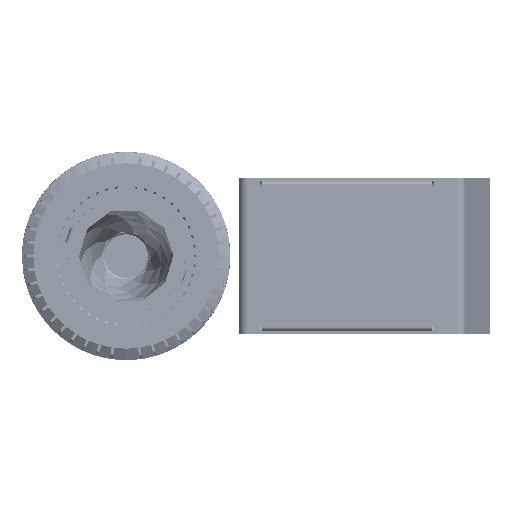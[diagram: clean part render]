
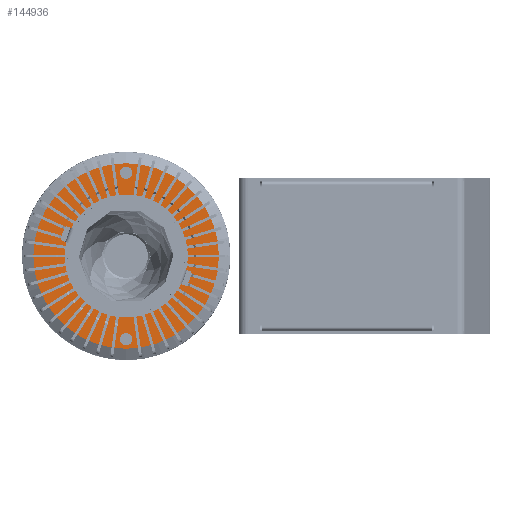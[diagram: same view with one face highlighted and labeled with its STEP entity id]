
A CAD part, front view. The second image highlights one B-rep face of the part: STEP entity #144936.
In plain terms, the highlighted planar face has unit normal (0, -1, 0).
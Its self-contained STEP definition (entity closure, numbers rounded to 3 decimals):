
#2117 = ORIENTED_EDGE ( 'NONE', *, *, #62719, .F. ) ;
#2439 = ORIENTED_EDGE ( 'NONE', *, *, #114952, .F. ) ;
#7847 = FACE_BOUND ( 'NONE', #105581, .T. ) ;
#10839 = CIRCLE ( 'NONE', #202651, 49. ) ;
#15204 = DIRECTION ( 'NONE',  ( 0., 0., 1. ) ) ;
#16013 = CIRCLE ( 'NONE', #105533, 29. ) ;
#17192 = CARTESIAN_POINT ( 'NONE',  ( 44., 0., 0. ) ) ;
#23061 = ORIENTED_EDGE ( 'NONE', *, *, #134742, .T. ) ;
#23401 = CARTESIAN_POINT ( 'NONE',  ( 11.287, 0., 31.01 ) ) ;
#30851 = DIRECTION ( 'NONE',  ( 1., 0., 0. ) ) ;
#39822 = VERTEX_POINT ( 'NONE', #254843 ) ;
#41672 = DIRECTION ( 'NONE',  ( 0., 0., 1. ) ) ;
#42994 = DIRECTION ( 'NONE',  ( 0., 1., 0. ) ) ;
#44289 = AXIS2_PLACEMENT_3D ( 'NONE', #49617, #129634, #30851 ) ;
#44606 = ORIENTED_EDGE ( 'NONE', *, *, #120510, .F. ) ;
#45955 = AXIS2_PLACEMENT_3D ( 'NONE', #131595, #94200, #115441 ) ;
#49617 = CARTESIAN_POINT ( 'NONE',  ( 0., 0., 0. ) ) ;
#50296 = DIRECTION ( 'NONE',  ( 0., -1., 0. ) ) ;
#55204 = DIRECTION ( 'NONE',  ( 1., 0., 0. ) ) ;
#59048 = EDGE_LOOP ( 'NONE', ( #23061, #254694 ) ) ;
#62198 = DIRECTION ( 'NONE',  ( 0., -1., 0. ) ) ;
#62719 = EDGE_CURVE ( 'NONE', #179702, #39822, #260876, .T. ) ;
#62816 = EDGE_LOOP ( 'NONE', ( #246469, #85282 ) ) ;
#67607 = CARTESIAN_POINT ( 'NONE',  ( -44., 0., -3.25 ) ) ;
#69428 = DIRECTION ( 'NONE',  ( 0., -1., 0. ) ) ;
#69877 = CARTESIAN_POINT ( 'NONE',  ( 44., 0., -3.25 ) ) ;
#70821 = EDGE_LOOP ( 'NONE', ( #183611, #177614 ) ) ;
#72187 = CARTESIAN_POINT ( 'NONE',  ( 44., 0., 3.25 ) ) ;
#76181 = EDGE_CURVE ( 'NONE', #81557, #149659, #244625, .T. ) ;
#77167 = CIRCLE ( 'NONE', #238900, 49. ) ;
#78402 = VERTEX_POINT ( 'NONE', #97237 ) ;
#78536 = CARTESIAN_POINT ( 'NONE',  ( 12.887, 0., 31.01 ) ) ;
#81557 = VERTEX_POINT ( 'NONE', #72187 ) ;
#82803 = CARTESIAN_POINT ( 'NONE',  ( -9.687, 0., -31.01 ) ) ;
#84111 = PLANE ( 'NONE',  #144770 ) ;
#85282 = ORIENTED_EDGE ( 'NONE', *, *, #122939, .T. ) ;
#89431 = VERTEX_POINT ( 'NONE', #67607 ) ;
#91848 = VERTEX_POINT ( 'NONE', #132423 ) ;
#94200 = DIRECTION ( 'NONE',  ( 0., 1., 0. ) ) ;
#97237 = CARTESIAN_POINT ( 'NONE',  ( -12.887, 0., -31.01 ) ) ;
#99227 = DIRECTION ( 'NONE',  ( 0., 1., 0. ) ) ;
#99547 = DIRECTION ( 'NONE',  ( 1., 0., 0. ) ) ;
#104066 = FACE_BOUND ( 'NONE', #232797, .T. ) ;
#104403 = DIRECTION ( 'NONE',  ( 0., -1., 0. ) ) ;
#105533 = AXIS2_PLACEMENT_3D ( 'NONE', #208456, #191001, #110950 ) ;
#105581 = EDGE_LOOP ( 'NONE', ( #241490, #2439 ) ) ;
#108193 = AXIS2_PLACEMENT_3D ( 'NONE', #109362, #69428, #254675 ) ;
#108976 = CARTESIAN_POINT ( 'NONE',  ( -29., 0., 0. ) ) ;
#109362 = CARTESIAN_POINT ( 'NONE',  ( 11.287, 0., 31.01 ) ) ;
#110835 = EDGE_CURVE ( 'NONE', #126215, #153673, #119865, .T. ) ;
#110950 = DIRECTION ( 'NONE',  ( 1., 0., 0. ) ) ;
#114952 = EDGE_CURVE ( 'NONE', #153673, #126215, #146723, .T. ) ;
#115441 = DIRECTION ( 'NONE',  ( 0., 0., 1. ) ) ;
#119088 = EDGE_CURVE ( 'NONE', #78402, #140931, #250571, .T. ) ;
#119741 = AXIS2_PLACEMENT_3D ( 'NONE', #250999, #209737, #253619 ) ;
#119865 = CIRCLE ( 'NONE', #213792, 1.6 ) ;
#120510 = EDGE_CURVE ( 'NONE', #39822, #179702, #16013, .T. ) ;
#122939 = EDGE_CURVE ( 'NONE', #140227, #91848, #10839, .T. ) ;
#125530 = ORIENTED_EDGE ( 'NONE', *, *, #146277, .F. ) ;
#126215 = VERTEX_POINT ( 'NONE', #213832 ) ;
#128012 = CARTESIAN_POINT ( 'NONE',  ( 49., 0., 0. ) ) ;
#129634 = DIRECTION ( 'NONE',  ( 0., -1., 0. ) ) ;
#131595 = CARTESIAN_POINT ( 'NONE',  ( -44., 0., 0. ) ) ;
#131638 = DIRECTION ( 'NONE',  ( 1., 0., 0. ) ) ;
#132183 = CIRCLE ( 'NONE', #221550, 3.25 ) ;
#132423 = CARTESIAN_POINT ( 'NONE',  ( -49., 0., 0. ) ) ;
#134682 = EDGE_LOOP ( 'NONE', ( #2117, #44606 ) ) ;
#134742 = EDGE_CURVE ( 'NONE', #89431, #227991, #132183, .T. ) ;
#140227 = VERTEX_POINT ( 'NONE', #186001 ) ;
#140931 = VERTEX_POINT ( 'NONE', #82803 ) ;
#143823 = CIRCLE ( 'NONE', #45955, 3.25 ) ;
#144770 = AXIS2_PLACEMENT_3D ( 'NONE', #128012, #166680, #170655 ) ;
#144936 = ADVANCED_FACE ( 'NONE', ( #7847, #104066, #149296, #189304, #169343, #250625 ), #84111, .T. ) ;
#146277 = EDGE_CURVE ( 'NONE', #140931, #78402, #230366, .T. ) ;
#146723 = CIRCLE ( 'NONE', #108193, 1.6 ) ;
#149296 = FACE_BOUND ( 'NONE', #70821, .T. ) ;
#149659 = VERTEX_POINT ( 'NONE', #69877 ) ;
#150276 = CARTESIAN_POINT ( 'NONE',  ( 0., 0., 0. ) ) ;
#153673 = VERTEX_POINT ( 'NONE', #78536 ) ;
#166680 = DIRECTION ( 'NONE',  ( 0., -1., 0. ) ) ;
#166954 = CARTESIAN_POINT ( 'NONE',  ( 44., 0., 0. ) ) ;
#167935 = AXIS2_PLACEMENT_3D ( 'NONE', #166954, #42994, #41672 ) ;
#169343 = FACE_BOUND ( 'NONE', #134682, .T. ) ;
#169937 = CARTESIAN_POINT ( 'NONE',  ( 0., 0., 0. ) ) ;
#170655 = DIRECTION ( 'NONE',  ( 1., 0., 0. ) ) ;
#171164 = CIRCLE ( 'NONE', #213831, 3.25 ) ;
#176537 = DIRECTION ( 'NONE',  ( 0., -1., 0. ) ) ;
#177325 = DIRECTION ( 'NONE',  ( 0., 0., 1. ) ) ;
#177614 = ORIENTED_EDGE ( 'NONE', *, *, #76181, .T. ) ;
#179702 = VERTEX_POINT ( 'NONE', #108976 ) ;
#183611 = ORIENTED_EDGE ( 'NONE', *, *, #245344, .T. ) ;
#185720 = DIRECTION ( 'NONE',  ( 1., 0., 0. ) ) ;
#186001 = CARTESIAN_POINT ( 'NONE',  ( 49., 0., 0. ) ) ;
#189304 = FACE_OUTER_BOUND ( 'NONE', #62816, .T. ) ;
#191001 = DIRECTION ( 'NONE',  ( 0., -1., 0. ) ) ;
#192661 = EDGE_CURVE ( 'NONE', #91848, #140227, #77167, .T. ) ;
#199298 = CARTESIAN_POINT ( 'NONE',  ( -44., 0., 0. ) ) ;
#201744 = EDGE_CURVE ( 'NONE', #227991, #89431, #143823, .T. ) ;
#202651 = AXIS2_PLACEMENT_3D ( 'NONE', #150276, #50296, #131638 ) ;
#208456 = CARTESIAN_POINT ( 'NONE',  ( 0., 0., 0. ) ) ;
#209737 = DIRECTION ( 'NONE',  ( 0., -1., 0. ) ) ;
#213792 = AXIS2_PLACEMENT_3D ( 'NONE', #23401, #62198, #99547 ) ;
#213832 = CARTESIAN_POINT ( 'NONE',  ( 9.687, 0., 31.01 ) ) ;
#213831 = AXIS2_PLACEMENT_3D ( 'NONE', #17192, #263872, #177325 ) ;
#220698 = AXIS2_PLACEMENT_3D ( 'NONE', #245734, #104403, #185720 ) ;
#221550 = AXIS2_PLACEMENT_3D ( 'NONE', #199298, #99227, #15204 ) ;
#227991 = VERTEX_POINT ( 'NONE', #251833 ) ;
#230366 = CIRCLE ( 'NONE', #119741, 1.6 ) ;
#232797 = EDGE_LOOP ( 'NONE', ( #254090, #125530 ) ) ;
#238900 = AXIS2_PLACEMENT_3D ( 'NONE', #169937, #176537, #55204 ) ;
#241490 = ORIENTED_EDGE ( 'NONE', *, *, #110835, .F. ) ;
#244625 = CIRCLE ( 'NONE', #167935, 3.25 ) ;
#245344 = EDGE_CURVE ( 'NONE', #149659, #81557, #171164, .T. ) ;
#245734 = CARTESIAN_POINT ( 'NONE',  ( -11.287, 0., -31.01 ) ) ;
#246469 = ORIENTED_EDGE ( 'NONE', *, *, #192661, .T. ) ;
#250571 = CIRCLE ( 'NONE', #220698, 1.6 ) ;
#250625 = FACE_BOUND ( 'NONE', #59048, .T. ) ;
#250999 = CARTESIAN_POINT ( 'NONE',  ( -11.287, 0., -31.01 ) ) ;
#251833 = CARTESIAN_POINT ( 'NONE',  ( -44., 0., 3.25 ) ) ;
#253619 = DIRECTION ( 'NONE',  ( 1., 0., 0. ) ) ;
#254090 = ORIENTED_EDGE ( 'NONE', *, *, #119088, .F. ) ;
#254675 = DIRECTION ( 'NONE',  ( 1., 0., 0. ) ) ;
#254694 = ORIENTED_EDGE ( 'NONE', *, *, #201744, .T. ) ;
#254843 = CARTESIAN_POINT ( 'NONE',  ( 29., 0., 0. ) ) ;
#260876 = CIRCLE ( 'NONE', #44289, 29. ) ;
#263872 = DIRECTION ( 'NONE',  ( 0., 1., 0. ) ) ;
